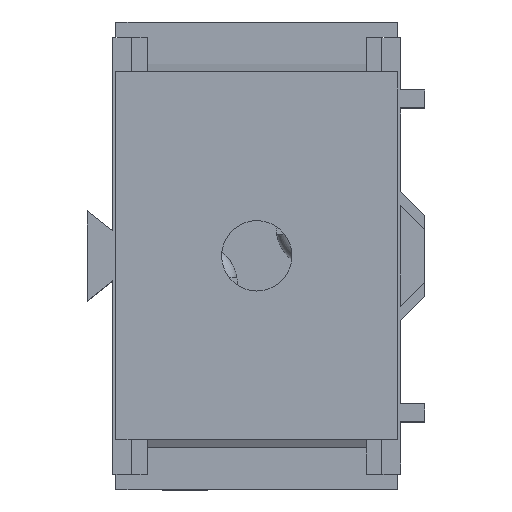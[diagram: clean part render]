
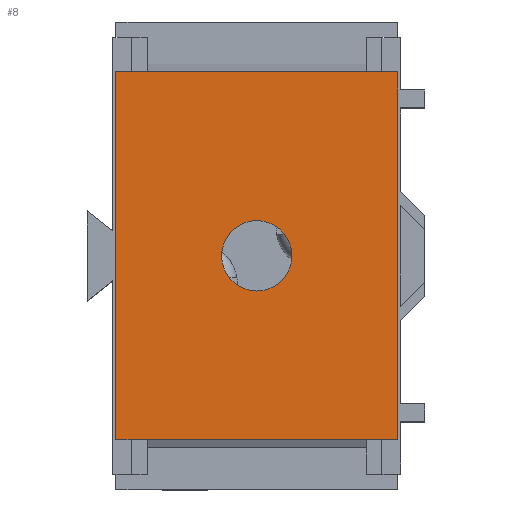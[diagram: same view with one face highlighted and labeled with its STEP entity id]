
A CAD part, top view. The second image highlights one B-rep face of the part: STEP entity #8.
In plain terms, the highlighted planar face has unit normal (0, 0, 1).
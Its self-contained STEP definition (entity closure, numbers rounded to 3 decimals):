
#8 = ADVANCED_FACE ( 'NONE', ( #9582, #9580 ), #9159, .T. ) ;
#7183 = EDGE_LOOP ( 'NONE', ( #9083, #9084 ) ) ;
#7186 = EDGE_LOOP ( 'NONE', ( #9085, #9086, #9087, #9088 ) ) ;
#7734 = VERTEX_POINT ( 'NONE', #22338 ) ;
#7735 = VERTEX_POINT ( 'NONE', #22339 ) ;
#7767 = VERTEX_POINT ( 'NONE', #22371 ) ;
#7768 = VERTEX_POINT ( 'NONE', #22372 ) ;
#7777 = VERTEX_POINT ( 'NONE', #22381 ) ;
#7780 = VERTEX_POINT ( 'NONE', #22384 ) ;
#7975 = EDGE_CURVE ( 'NONE', #7734, #7735, #23306, .T. ) ;
#8006 = EDGE_CURVE ( 'NONE', #7768, #7767, #23359, .T. ) ;
#8024 = EDGE_CURVE ( 'NONE', #7777, #7780, #23394, .T. ) ;
#8112 = EDGE_CURVE ( 'NONE', #7780, #7768, #23540, .T. ) ;
#8113 = EDGE_CURVE ( 'NONE', #7767, #7777, #23567, .T. ) ;
#8119 = EDGE_CURVE ( 'NONE', #7735, #7734, #23581, .T. ) ;
#8195 = AXIS2_PLACEMENT_3D ( 'NONE', #9160, #9165, #9166 ) ;
#9083 = ORIENTED_EDGE ( 'NONE', *, *, #8119, .F. ) ;
#9084 = ORIENTED_EDGE ( 'NONE', *, *, #7975, .F. ) ;
#9085 = ORIENTED_EDGE ( 'NONE', *, *, #8024, .T. ) ;
#9086 = ORIENTED_EDGE ( 'NONE', *, *, #8112, .T. ) ;
#9087 = ORIENTED_EDGE ( 'NONE', *, *, #8006, .T. ) ;
#9088 = ORIENTED_EDGE ( 'NONE', *, *, #8113, .T. ) ;
#9159 = PLANE ( 'NONE',  #8195 ) ;
#9160 = CARTESIAN_POINT ( 'NONE',  ( 18., -23.5, 33.2 ) ) ;
#9165 = DIRECTION ( 'NONE',  ( 0., 0., 1. ) ) ;
#9166 = DIRECTION ( 'NONE',  ( 1., 0., 0. ) ) ;
#9580 = FACE_OUTER_BOUND ( 'NONE', #7186, .T. ) ;
#9582 = FACE_BOUND ( 'NONE', #7183, .T. ) ;
#17143 = AXIS2_PLACEMENT_3D ( 'NONE', #23926, #23930, #23931 ) ;
#17150 = AXIS2_PLACEMENT_3D ( 'NONE', #24218, #24232, #24233 ) ;
#22338 = CARTESIAN_POINT ( 'NONE',  ( -4.5, 0., 33.2 ) ) ;
#22339 = CARTESIAN_POINT ( 'NONE',  ( 4.5, 0., 33.2 ) ) ;
#22371 = CARTESIAN_POINT ( 'NONE',  ( -18., -23.5, 33.2 ) ) ;
#22372 = CARTESIAN_POINT ( 'NONE',  ( -18., 23.5, 33.2 ) ) ;
#22381 = CARTESIAN_POINT ( 'NONE',  ( 18., -23.5, 33.2 ) ) ;
#22384 = CARTESIAN_POINT ( 'NONE',  ( 18., 23.5, 33.2 ) ) ;
#23306 = CIRCLE ( 'NONE', #17143, 4.5 ) ;
#23359 = LINE ( 'NONE', #23999, #23360 ) ;
#23360 = VECTOR ( 'NONE', #24000, 1000. ) ;
#23394 = LINE ( 'NONE', #24034, #23395 ) ;
#23395 = VECTOR ( 'NONE', #24035, 1000. ) ;
#23540 = LINE ( 'NONE', #24213, #23565 ) ;
#23565 = VECTOR ( 'NONE', #24219, 1000. ) ;
#23567 = LINE ( 'NONE', #24220, #23568 ) ;
#23568 = VECTOR ( 'NONE', #24221, 1000. ) ;
#23581 = CIRCLE ( 'NONE', #17150, 4.5 ) ;
#23926 = CARTESIAN_POINT ( 'NONE',  ( 0., 0., 33.2 ) ) ;
#23930 = DIRECTION ( 'NONE',  ( 0., 0., 1. ) ) ;
#23931 = DIRECTION ( 'NONE',  ( 1., 0., 0. ) ) ;
#23999 = CARTESIAN_POINT ( 'NONE',  ( -18., 23.5, 33.2 ) ) ;
#24000 = DIRECTION ( 'NONE',  ( 0., -1., 0. ) ) ;
#24034 = CARTESIAN_POINT ( 'NONE',  ( 18., 23.5, 33.2 ) ) ;
#24035 = DIRECTION ( 'NONE',  ( 0., 1., 0. ) ) ;
#24213 = CARTESIAN_POINT ( 'NONE',  ( -18., 23.5, 33.2 ) ) ;
#24218 = CARTESIAN_POINT ( 'NONE',  ( 0., 0., 33.2 ) ) ;
#24219 = DIRECTION ( 'NONE',  ( -1., 0., 0. ) ) ;
#24220 = CARTESIAN_POINT ( 'NONE',  ( -18., -23.5, 33.2 ) ) ;
#24221 = DIRECTION ( 'NONE',  ( 1., 0., 0. ) ) ;
#24232 = DIRECTION ( 'NONE',  ( 0., 0., 1. ) ) ;
#24233 = DIRECTION ( 'NONE',  ( 1., 0., 0. ) ) ;
